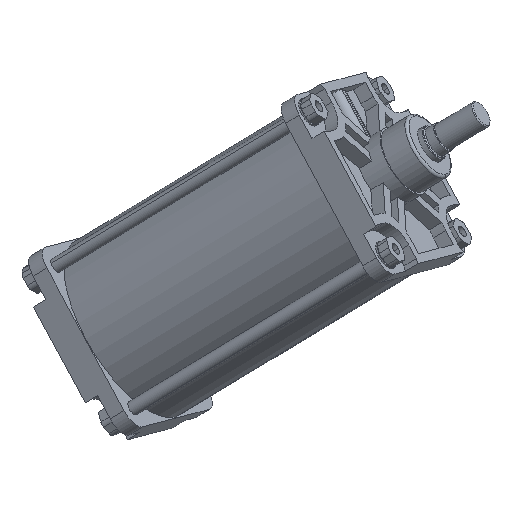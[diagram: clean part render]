
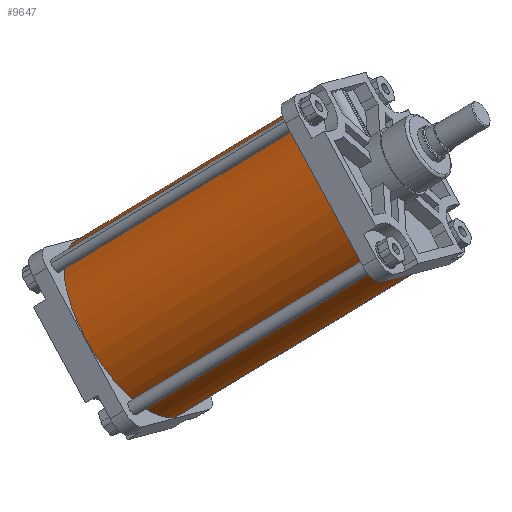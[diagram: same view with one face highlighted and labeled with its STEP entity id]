
A CAD part, top view. The second image highlights one B-rep face of the part: STEP entity #9647.
In plain terms, the highlighted cylindrical face has radius 168 mm (diameter 336 mm), a partial arc.
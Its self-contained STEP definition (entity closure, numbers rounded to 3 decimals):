
#8886=CARTESIAN_POINT('Vertex',(0.,168.,0.)) ;
#8888=CARTESIAN_POINT('Vertex',(0.,-168.,0.)) ;
#8891=CARTESIAN_POINT('Axis2P3D Location',(0.,0.,0.)) ;
#9605=CARTESIAN_POINT('Axis2P3D Location',(-253.,0.,0.)) ;
#9610=CARTESIAN_POINT('Line Origine',(-253.,168.,0.)) ;
#9614=CARTESIAN_POINT('Vertex',(-506.,168.,0.)) ;
#9617=CARTESIAN_POINT('Line Origine',(-253.,-168.,0.)) ;
#9621=CARTESIAN_POINT('Vertex',(-506.,-168.,0.)) ;
#9636=CARTESIAN_POINT('Axis2P3D Location',(-506.,0.,0.)) ;
#8892=DIRECTION('Axis2P3D Direction',(1.,0.,0.)) ;
#9606=DIRECTION('Axis2P3D Direction',(-1.,-0.,0.)) ;
#9607=DIRECTION('Axis2P3D XDirection',(0.,-1.,0.)) ;
#9611=DIRECTION('Vector Direction',(-1.,0.,0.)) ;
#9618=DIRECTION('Vector Direction',(-1.,0.,0.)) ;
#9637=DIRECTION('Axis2P3D Direction',(-1.,-0.,0.)) ;
#8893=AXIS2_PLACEMENT_3D('Circle Axis2P3D',#8891,#8892,$) ;
#9608=AXIS2_PLACEMENT_3D('Cylinder Axis2P3D',#9605,#9606,#9607) ;
#9638=AXIS2_PLACEMENT_3D('Circle Axis2P3D',#9636,#9637,$) ;
#9642=ORIENTED_EDGE('',*,*,#9623,.F.) ;
#9643=ORIENTED_EDGE('',*,*,#8895,.T.) ;
#9644=ORIENTED_EDGE('',*,*,#9616,.T.) ;
#9645=ORIENTED_EDGE('',*,*,#9640,.F.) ;
#9612=VECTOR('Line Direction',#9611,1.) ;
#9619=VECTOR('Line Direction',#9618,1.) ;
#9647=ADVANCED_FACE('PartBody',(#9646),#9609,.T.) ;
#8894=CIRCLE('generated circle',#8893,168.) ;
#9639=CIRCLE('generated circle',#9638,168.) ;
#9609=CYLINDRICAL_SURFACE('generated cylinder',#9608,168.) ;
#8895=EDGE_CURVE('',#8889,#8887,#8894,.F.) ;
#9616=EDGE_CURVE('',#8887,#9615,#9613,.T.) ;
#9623=EDGE_CURVE('',#8889,#9622,#9620,.T.) ;
#9640=EDGE_CURVE('',#9622,#9615,#9639,.T.) ;
#9641=EDGE_LOOP('',(#9642,#9643,#9644,#9645)) ;
#9646=FACE_OUTER_BOUND('',#9641,.T.) ;
#9613=LINE('Line',#9610,#9612) ;
#9620=LINE('Line',#9617,#9619) ;
#8887=VERTEX_POINT('',#8886) ;
#8889=VERTEX_POINT('',#8888) ;
#9615=VERTEX_POINT('',#9614) ;
#9622=VERTEX_POINT('',#9621) ;
